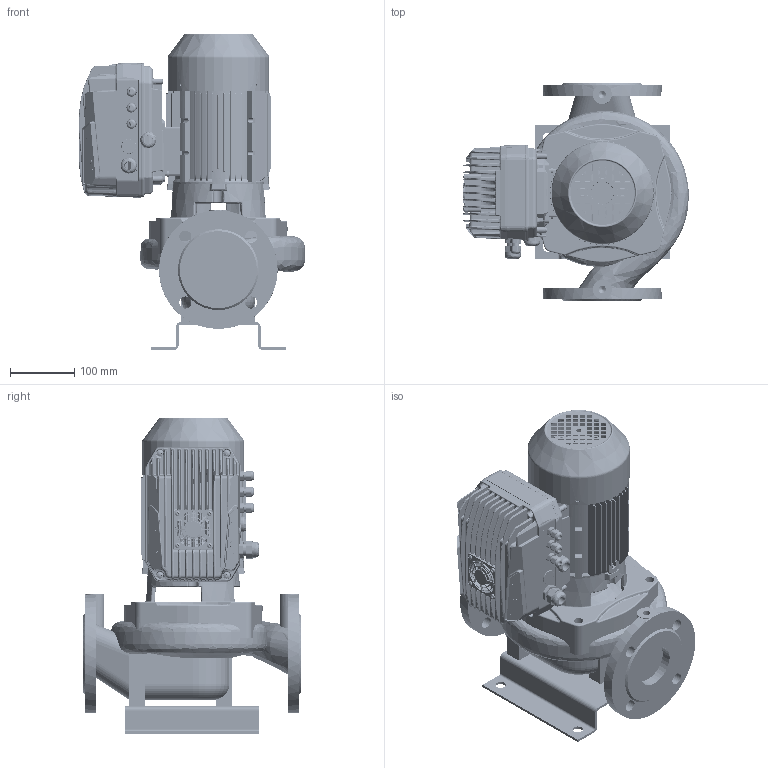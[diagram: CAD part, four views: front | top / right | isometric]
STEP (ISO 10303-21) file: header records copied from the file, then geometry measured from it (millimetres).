
FILE_DESCRIPTION(('STEP AP214'),'1');
FILE_NAME('export.stp','2022-08-29T11:32:43',(' '),(' '),'Spatial InterOp 3D',' ',' ');
FILE_SCHEMA(('AUTOMOTIVE_DESIGN { 1 0 10303 214 1 1 1 1 }'));
Length unit declared in the file: millimetre
Products named in the file (48): W_L65A4770_withou; V_TLL65AB80A1102; V_PPL65AB; V_JALKA35973; W_L65A4_XX_KP80; V_AdapMida205_407; 210588; DIN_7985-M5X8; 160022; 160003; V_MKP80-2_F19; 160141; 160137; 160138; 160139; 160140; Koura_Ale_M5; Plug_Blind_M20; Sealing_Plug_M20; DIN_7985-M5X12; 480032; 480031___; 480034; 480033___; 160133; MIDA_180deg; BASE_MIDA_NASTEC_89; 3005020100_AF0_157; PRT0001; PRT0002; PRT0003; PRT0005; PRT0006; PRT0007; V4-25--_-_U7687_PZ_AF0_5; V4-25--_-_U7687_PZ_AF1_5; V4-25--_-_U7687_PZ_AF2_5; V4-25--_-_U7687_PZ_AF3_5; V5-30--_-_U7687_PZ_AF0_5; V5-30--_-_U7687_PZ_AF1_5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
Assembly tree (51 placements, depth 4):
  W_L65A4_XX_KP80
    W_L65A4770_withou
      V_TLL65AB80A1102
      V_PPL65AB
      V_JALKA35973
    V_AdapMida205_407
      210588
      DIN_7985-M5X8  x2
    V_MKP80-2_F19
      160022
        160003
      160141
        160137
        160138
        160139
        160140
        Koura_Ale_M5
        Plug_Blind_M20
        Sealing_Plug_M20
        DIN_7985-M5X8
        DIN_7985-M5X12  x4
      480032
        480031___
      480034
        480033___
      160133
    Mida205
      MIDA_180deg
        BASE_MIDA_NASTEC_89
        3005020100_AF0_157
        PRT0001
        PRT0002
        PRT0003
        PRT0005
        PRT0006
        PRT0007
        V4-25--_-_U7687_PZ_AF0_5
        V4-25--_-_U7687_PZ_AF1_5
        V4-25--_-_U7687_PZ_AF2_5
        V4-25--_-_U7687_PZ_AF3_5
        V5-30--_-_U7687_PZ_AF0_5
        V5-30--_-_U7687_PZ_AF1_5
        V5-30--_-_U7687_PZ_AF2_5
        V5-30--_-_U7687_PZ_5
        2001300200_32
        TASTIERA_MIDA_2_44
        ETICHETTA_MIDA_9
        TAPPO_PRESSACAVO_M20_5
Bounding box: 352 x 340 x 492.11 mm (x, y, z)
Volume: 6747981.5 mm3; surface area: 1689683.1 mm2
Topology: 41 solids, 42 shells, 6644 faces, 17137 edges, 10560 vertices
Faces by surface type: plane 2308, cylinder 2100, bspline 1474, cone 404, torus 294, sphere 64
Entity records: 334608 total; most frequent: CARTESIAN_POINT 156868, ORIENTED_EDGE 33608, DIRECTION 24537, EDGE_CURVE 16808, VERTEX_POINT 10433, AXIS2_PLACEMENT_3D 8962, EDGE_LOOP 7070, LINE 6613
